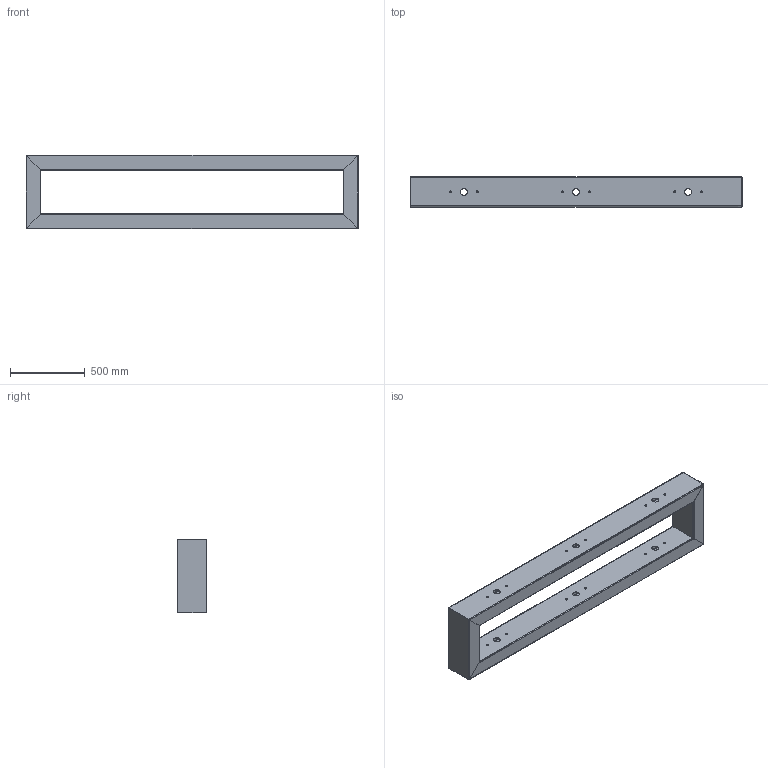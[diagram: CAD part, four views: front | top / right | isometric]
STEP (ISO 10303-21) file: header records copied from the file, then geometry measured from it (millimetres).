
FILE_DESCRIPTION(/* description */ (''),/* implementation_level */ '2;1');
FILE_NAME(/* name */ '2020TOMO-TELAIO-ASSY.00_v12-Part_06.stp',/* time_stamp */ '2022-05-16T13:33:01+02:00',/* author */ (''),/* organization */ (''),/* preprocessor_version */ 'ST-DEVELOPER v18.102',/* originating_system */ 'SIEMENS PLM Software NX 2000',/* authorisation */ '');
FILE_SCHEMA (('AUTOMOTIVE_DESIGN { 1 0 10303 214 3 1 1 1 }'));
Length unit declared in the file: millimetre
Products named in the file (1): turc3144724Fyy5u
Bounding box: 2220 x 200 x 494 mm (x, y, z)
Volume: 8681946 mm3; surface area: 5816028.4 mm2
Topology: 4 solids, 4 shells, 108 faces, 312 edges, 212 vertices
Faces by surface type: cylinder 68, plane 40
Full cylindrical faces by diameter (mm): 14 x24, 46 x12
Entity records: 3547 total; most frequent: DIRECTION 618, CARTESIAN_POINT 573, ORIENTED_EDGE 528, EDGE_CURVE 264, AXIS2_PLACEMENT_3D 245, EDGE_LOOP 224, VERTEX_POINT 200, FACE_BOUND 168
